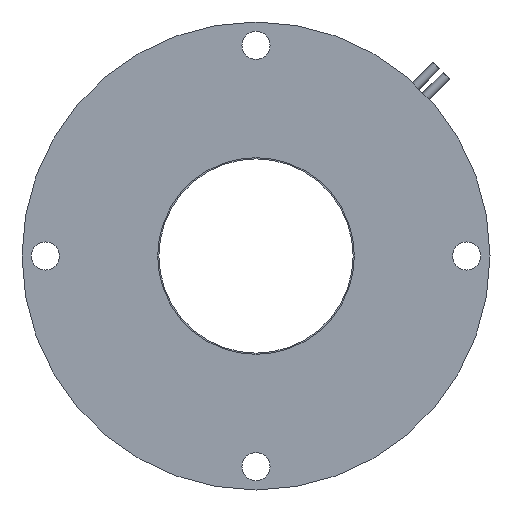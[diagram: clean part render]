
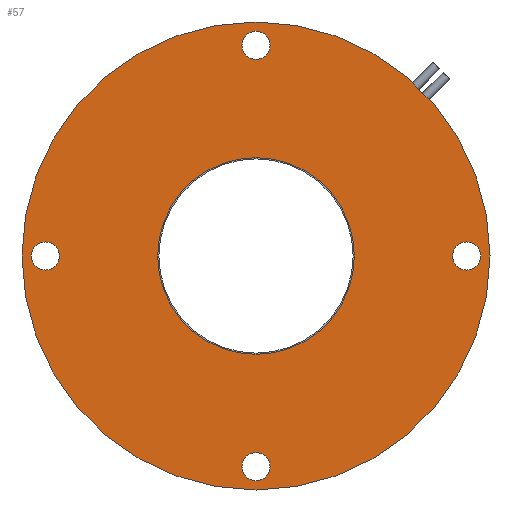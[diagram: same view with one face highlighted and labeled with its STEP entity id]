
A CAD part, front view. The second image highlights one B-rep face of the part: STEP entity #57.
In plain terms, the highlighted planar face has unit normal (0, -1, 0).
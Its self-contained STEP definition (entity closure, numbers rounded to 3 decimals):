
#24 = DIRECTION ( 'NONE',  ( 0., 1., 0. ) ) ;
#57 = ADVANCED_FACE ( 'NONE', ( #894, #459, #3102, #3227, #1465, #237 ), #1122, .F. ) ;
#89 = AXIS2_PLACEMENT_3D ( 'NONE', #1930, #649, #2920 ) ;
#143 = CARTESIAN_POINT ( 'NONE',  ( 0., 0., 48. ) ) ;
#150 = EDGE_LOOP ( 'NONE', ( #1310 ) ) ;
#170 = VERTEX_POINT ( 'NONE', #2930 ) ;
#173 = ORIENTED_EDGE ( 'NONE', *, *, #530, .T. ) ;
#198 = AXIS2_PLACEMENT_3D ( 'NONE', #1216, #1007, #1523 ) ;
#228 = CIRCLE ( 'NONE', #198, 50. ) ;
#237 = FACE_BOUND ( 'NONE', #1815, .T. ) ;
#286 = EDGE_LOOP ( 'NONE', ( #173 ) ) ;
#363 = ORIENTED_EDGE ( 'NONE', *, *, #2423, .T. ) ;
#383 = DIRECTION ( 'NONE',  ( 0., 1., 0. ) ) ;
#459 = FACE_BOUND ( 'NONE', #2282, .T. ) ;
#502 = CIRCLE ( 'NONE', #2649, 3. ) ;
#530 = EDGE_CURVE ( 'NONE', #1629, #1629, #502, .T. ) ;
#541 = CIRCLE ( 'NONE', #3103, 3. ) ;
#649 = DIRECTION ( 'NONE',  ( 0., 1., 0. ) ) ;
#806 = AXIS2_PLACEMENT_3D ( 'NONE', #1543, #24, #2793 ) ;
#848 = CARTESIAN_POINT ( 'NONE',  ( 0., 0., -45. ) ) ;
#894 = FACE_BOUND ( 'NONE', #3065, .T. ) ;
#925 = VERTEX_POINT ( 'NONE', #2187 ) ;
#931 = CARTESIAN_POINT ( 'NONE',  ( 21., 0., 0. ) ) ;
#962 = EDGE_CURVE ( 'NONE', #3039, #3039, #2974, .T. ) ;
#1007 = DIRECTION ( 'NONE',  ( 0., 1., 0. ) ) ;
#1015 = ORIENTED_EDGE ( 'NONE', *, *, #1863, .F. ) ;
#1122 = PLANE ( 'NONE',  #2314 ) ;
#1127 = DIRECTION ( 'NONE',  ( 0., 1., 0. ) ) ;
#1216 = CARTESIAN_POINT ( 'NONE',  ( 0., 0., 0. ) ) ;
#1310 = ORIENTED_EDGE ( 'NONE', *, *, #1375, .T. ) ;
#1375 = EDGE_CURVE ( 'NONE', #925, #925, #541, .T. ) ;
#1465 = FACE_OUTER_BOUND ( 'NONE', #2293, .T. ) ;
#1495 = CIRCLE ( 'NONE', #806, 21. ) ;
#1518 = ORIENTED_EDGE ( 'NONE', *, *, #2042, .T. ) ;
#1523 = DIRECTION ( 'NONE',  ( 0., 0., 1. ) ) ;
#1543 = CARTESIAN_POINT ( 'NONE',  ( 0., 0., 0. ) ) ;
#1629 = VERTEX_POINT ( 'NONE', #1890 ) ;
#1815 = EDGE_LOOP ( 'NONE', ( #1518 ) ) ;
#1843 = AXIS2_PLACEMENT_3D ( 'NONE', #2053, #2306, #2586 ) ;
#1848 = VERTEX_POINT ( 'NONE', #2418 ) ;
#1863 = EDGE_CURVE ( 'NONE', #1848, #1848, #228, .T. ) ;
#1890 = CARTESIAN_POINT ( 'NONE',  ( 0., 0., -42. ) ) ;
#1930 = CARTESIAN_POINT ( 'NONE',  ( -45., 0., 0. ) ) ;
#1983 = ORIENTED_EDGE ( 'NONE', *, *, #962, .T. ) ;
#2016 = VERTEX_POINT ( 'NONE', #2944 ) ;
#2042 = EDGE_CURVE ( 'NONE', #2016, #2016, #1495, .T. ) ;
#2048 = DIRECTION ( 'NONE',  ( 0., 0., 1. ) ) ;
#2053 = CARTESIAN_POINT ( 'NONE',  ( 0., 0., 45. ) ) ;
#2187 = CARTESIAN_POINT ( 'NONE',  ( 45., 0., 3. ) ) ;
#2279 = CARTESIAN_POINT ( 'NONE',  ( 45., 0., 0. ) ) ;
#2282 = EDGE_LOOP ( 'NONE', ( #363 ) ) ;
#2293 = EDGE_LOOP ( 'NONE', ( #1015 ) ) ;
#2306 = DIRECTION ( 'NONE',  ( 0., 1., 0. ) ) ;
#2314 = AXIS2_PLACEMENT_3D ( 'NONE', #931, #383, #3176 ) ;
#2418 = CARTESIAN_POINT ( 'NONE',  ( 0., 0., 50. ) ) ;
#2423 = EDGE_CURVE ( 'NONE', #170, #170, #3210, .T. ) ;
#2565 = DIRECTION ( 'NONE',  ( 0., 1., 0. ) ) ;
#2586 = DIRECTION ( 'NONE',  ( 0., 0., 1. ) ) ;
#2649 = AXIS2_PLACEMENT_3D ( 'NONE', #848, #1127, #2858 ) ;
#2793 = DIRECTION ( 'NONE',  ( 0., 0., 1. ) ) ;
#2858 = DIRECTION ( 'NONE',  ( 0., 0., 1. ) ) ;
#2920 = DIRECTION ( 'NONE',  ( 0., 0., 1. ) ) ;
#2930 = CARTESIAN_POINT ( 'NONE',  ( -45., 0., 3. ) ) ;
#2944 = CARTESIAN_POINT ( 'NONE',  ( 0., 0., 21. ) ) ;
#2974 = CIRCLE ( 'NONE', #1843, 3. ) ;
#3039 = VERTEX_POINT ( 'NONE', #143 ) ;
#3065 = EDGE_LOOP ( 'NONE', ( #1983 ) ) ;
#3102 = FACE_BOUND ( 'NONE', #286, .T. ) ;
#3103 = AXIS2_PLACEMENT_3D ( 'NONE', #2279, #2565, #2048 ) ;
#3176 = DIRECTION ( 'NONE',  ( 0., 0., 1. ) ) ;
#3210 = CIRCLE ( 'NONE', #89, 3. ) ;
#3227 = FACE_BOUND ( 'NONE', #150, .T. ) ;
